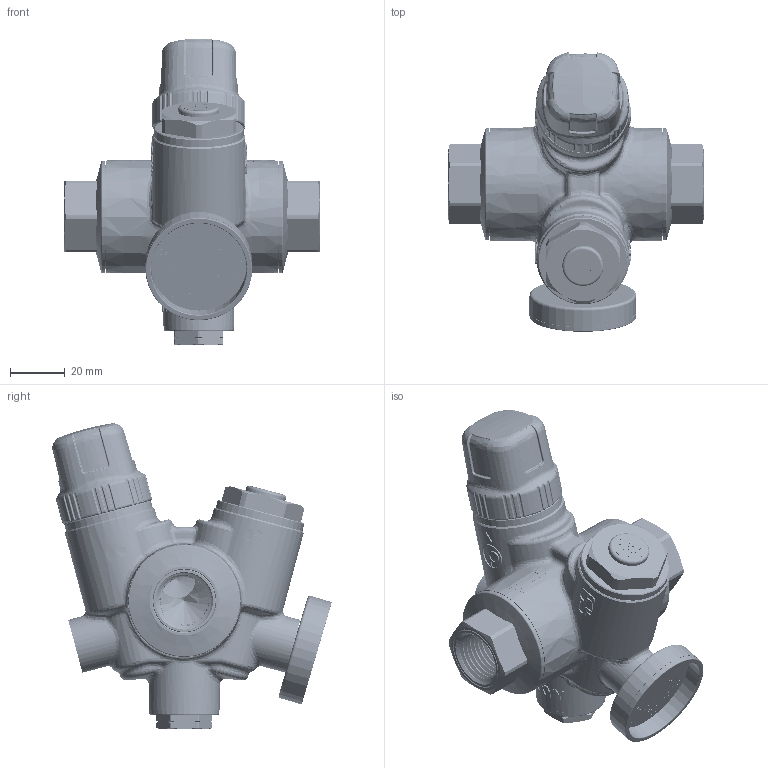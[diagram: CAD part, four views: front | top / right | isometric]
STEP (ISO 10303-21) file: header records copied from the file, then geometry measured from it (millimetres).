
FILE_DESCRIPTION(('Open CASCADE Model'),'2;1');
FILE_NAME('Open CASCADE Shape Model','2022-01-26T10:43:49',('Author'),( 'Open CASCADE'),'Open CASCADE STEP processor 7.3','Open CASCADE 7.3' ,'Unknown');
FILE_SCHEMA(('AUTOMOTIVE_DESIGN { 1 0 10303 214 1 1 1 1 }'));
Length unit declared in the file: millimetre
Products named in the file (24): Open CASCADE STEP translator 7.3 1; Open CASCADE STEP translator 7.3 1.1; Open CASCADE STEP translator 7.3 1.2; Open CASCADE STEP translator 7.3 1.3; Open CASCADE STEP translator 7.3 1.4; Open CASCADE STEP translator 7.3 1.5; Open CASCADE STEP translator 7.3 1.6; Open CASCADE STEP translator 7.3 1.7; Open CASCADE STEP translator 7.3 1.8; Open CASCADE STEP translator 7.3 1.9; Open CASCADE STEP translator 7.3 1.10; Open CASCADE STEP translator 7.3 1.11; Open CASCADE STEP translator 7.3 1.12; Open CASCADE STEP translator 7.3 1.13; Open CASCADE STEP translator 7.3 1.14; Open CASCADE STEP translator 7.3 1.15; Open CASCADE STEP translator 7.3 1.16; Open CASCADE STEP translator 7.3 1.17; Open CASCADE STEP translator 7.3 1.18; Open CASCADE STEP translator 7.3 1.19; Open CASCADE STEP translator 7.3 1.20; Open CASCADE STEP translator 7.3 1.21; Open CASCADE STEP translator 7.3 1.22; Open CASCADE STEP translator 7.3 1.23
Assembly tree (23 placements, depth 2):
  Open CASCADE STEP translator 7.3 1
    Open CASCADE STEP translator 7.3 1.1
    Open CASCADE STEP translator 7.3 1.2
    Open CASCADE STEP translator 7.3 1.3
    Open CASCADE STEP translator 7.3 1.4
    Open CASCADE STEP translator 7.3 1.5
    Open CASCADE STEP translator 7.3 1.6
    Open CASCADE STEP translator 7.3 1.7
    Open CASCADE STEP translator 7.3 1.8
    Open CASCADE STEP translator 7.3 1.9
    Open CASCADE STEP translator 7.3 1.10
    Open CASCADE STEP translator 7.3 1.11
    Open CASCADE STEP translator 7.3 1.12
    Open CASCADE STEP translator 7.3 1.13
    Open CASCADE STEP translator 7.3 1.14
    Open CASCADE STEP translator 7.3 1.15
    Open CASCADE STEP translator 7.3 1.16
    Open CASCADE STEP translator 7.3 1.17
    Open CASCADE STEP translator 7.3 1.18
    Open CASCADE STEP translator 7.3 1.19
    Open CASCADE STEP translator 7.3 1.20
    Open CASCADE STEP translator 7.3 1.21
    Open CASCADE STEP translator 7.3 1.22
    Open CASCADE STEP translator 7.3 1.23
Bounding box: 93.4 x 102.01 x 111.79 mm (x, y, z)
Volume: 140813.6 mm3; surface area: 95119.3 mm2
Topology: 23 solids, 24 shells, 5473 faces, 14038 edges, 8815 vertices
Faces by surface type: extrusion 1451, plane 1238, cylinder 1129, bspline 696, cone 432, torus 403, sphere 76, revolution 48
Entity records: 591040 total; most frequent: CARTESIAN_POINT 345447, DIRECTION 33105, ORIENTED_EDGE 28044, PCURVE 28044, DEFINITIONAL_REPRESENTATION 28044, B_SPLINE_CURVE_WITH_KNOTS 21532, VECTOR 18574, LINE 17123
